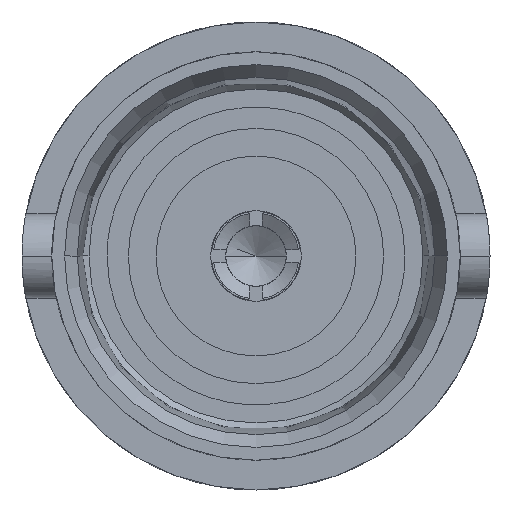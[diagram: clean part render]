
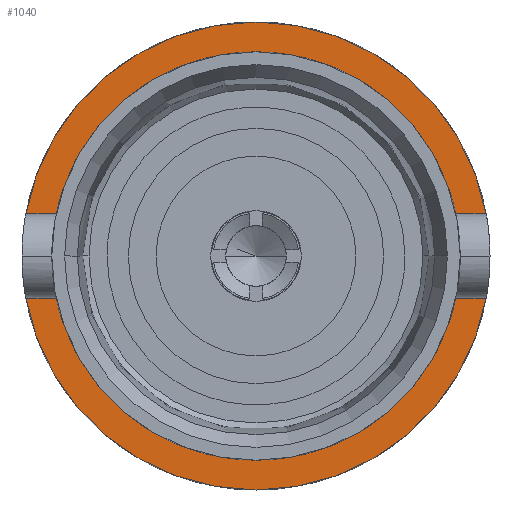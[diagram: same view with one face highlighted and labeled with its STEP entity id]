
A CAD part, left-side view. The second image highlights one B-rep face of the part: STEP entity #1040.
In plain terms, the highlighted planar face has unit normal (-1, 0, 0).
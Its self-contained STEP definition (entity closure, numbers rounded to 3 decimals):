
#28 = VERTEX_POINT ( 'NONE', #2695 ) ;
#142 = CIRCLE ( 'NONE', #1520, 4.8 ) ;
#190 = DIRECTION ( 'NONE',  ( -1., 0., 0. ) ) ;
#274 = VERTEX_POINT ( 'NONE', #742 ) ;
#352 = EDGE_CURVE ( 'NONE', #28, #274, #547, .T. ) ;
#372 = DIRECTION ( 'NONE',  ( -1., 0., 0. ) ) ;
#470 = CARTESIAN_POINT ( 'NONE',  ( 12.7, 0., 0. ) ) ;
#547 = CIRCLE ( 'NONE', #2668, 4.8 ) ;
#607 = EDGE_LOOP ( 'NONE', ( #1514, #3079 ) ) ;
#731 = CARTESIAN_POINT ( 'NONE',  ( 12.7, 0., 0. ) ) ;
#742 = CARTESIAN_POINT ( 'NONE',  ( 12.7, 4.8, 0. ) ) ;
#974 = AXIS2_PLACEMENT_3D ( 'NONE', #731, #1528, #2645 ) ;
#989 = ORIENTED_EDGE ( 'NONE', *, *, #1446, .T. ) ;
#1040 = ADVANCED_FACE ( 'NONE', ( #1058, #2087 ), #2915, .T. ) ;
#1058 = FACE_BOUND ( 'NONE', #607, .T. ) ;
#1179 = CIRCLE ( 'NONE', #2138, 5.5 ) ;
#1230 = VERTEX_POINT ( 'NONE', #2299 ) ;
#1446 = EDGE_CURVE ( 'NONE', #1912, #1230, #2019, .T. ) ;
#1455 = CARTESIAN_POINT ( 'NONE',  ( 12.7, 0., 0. ) ) ;
#1478 = EDGE_LOOP ( 'NONE', ( #989, #3319 ) ) ;
#1514 = ORIENTED_EDGE ( 'NONE', *, *, #1576, .F. ) ;
#1520 = AXIS2_PLACEMENT_3D ( 'NONE', #3528, #1623, #3304 ) ;
#1528 = DIRECTION ( 'NONE',  ( -1., 0., 0. ) ) ;
#1576 = EDGE_CURVE ( 'NONE', #274, #28, #142, .T. ) ;
#1623 = DIRECTION ( 'NONE',  ( -1., 0., 0. ) ) ;
#1883 = CARTESIAN_POINT ( 'NONE',  ( 12.7, 0., 0. ) ) ;
#1912 = VERTEX_POINT ( 'NONE', #3490 ) ;
#2019 = CIRCLE ( 'NONE', #2540, 5.5 ) ;
#2087 = FACE_OUTER_BOUND ( 'NONE', #1478, .T. ) ;
#2138 = AXIS2_PLACEMENT_3D ( 'NONE', #1455, #372, #3132 ) ;
#2299 = CARTESIAN_POINT ( 'NONE',  ( 12.7, 5.5, 0. ) ) ;
#2313 = EDGE_CURVE ( 'NONE', #1230, #1912, #1179, .T. ) ;
#2540 = AXIS2_PLACEMENT_3D ( 'NONE', #470, #190, #3199 ) ;
#2645 = DIRECTION ( 'NONE',  ( 0., 0., 1. ) ) ;
#2668 = AXIS2_PLACEMENT_3D ( 'NONE', #1883, #2996, #2676 ) ;
#2676 = DIRECTION ( 'NONE',  ( 0., 0., 1. ) ) ;
#2695 = CARTESIAN_POINT ( 'NONE',  ( 12.7, -4.8, 0. ) ) ;
#2915 = PLANE ( 'NONE',  #974 ) ;
#2996 = DIRECTION ( 'NONE',  ( -1., 0., 0. ) ) ;
#3079 = ORIENTED_EDGE ( 'NONE', *, *, #352, .F. ) ;
#3132 = DIRECTION ( 'NONE',  ( 0., 0., 1. ) ) ;
#3199 = DIRECTION ( 'NONE',  ( 0., 0., 1. ) ) ;
#3304 = DIRECTION ( 'NONE',  ( 0., 0., 1. ) ) ;
#3319 = ORIENTED_EDGE ( 'NONE', *, *, #2313, .T. ) ;
#3490 = CARTESIAN_POINT ( 'NONE',  ( 12.7, -5.5, 0. ) ) ;
#3528 = CARTESIAN_POINT ( 'NONE',  ( 12.7, 0., 0. ) ) ;
